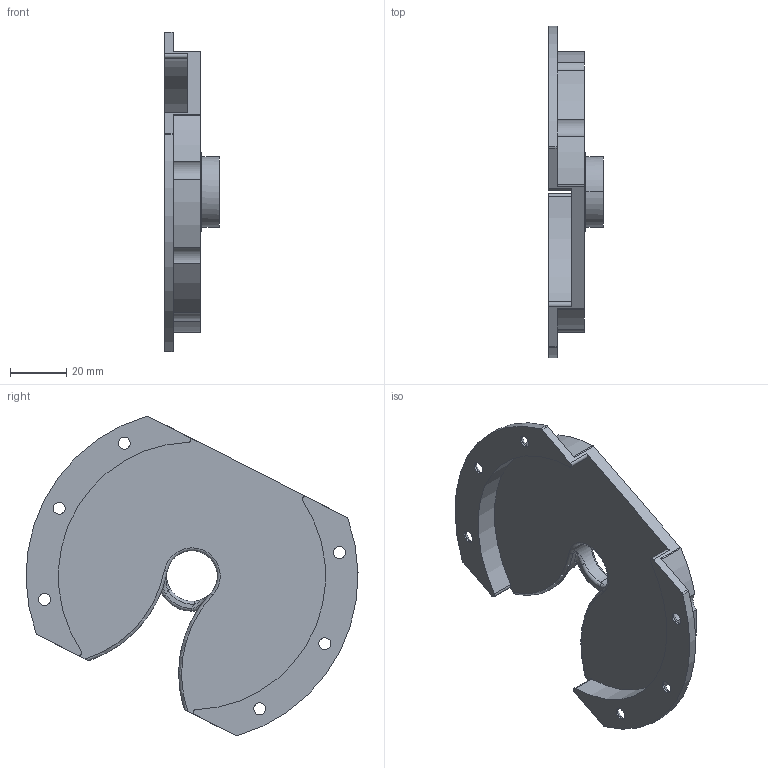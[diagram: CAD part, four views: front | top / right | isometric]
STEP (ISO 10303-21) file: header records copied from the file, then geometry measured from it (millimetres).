
FILE_DESCRIPTION((''),'2;1');
FILE_NAME('KD-D-403L_LEG-SHIN_COVER_1','2025-07-13T10:08:25',('Administrator'),(''),'CREO PARAMETRIC BY PTC INC, 2022073','CREO PARAMETRIC BY PTC INC, 2022073','');
FILE_SCHEMA(('CONFIG_CONTROL_DESIGN'));
Length unit declared in the file: millimetre
Products named in the file (1): KD-D-403L_LEG-SHIN_COVER_1
Bounding box: 19.45 x 117.97 x 113.57 mm (x, y, z)
Volume: 38928.2 mm3; surface area: 22907.3 mm2
Topology: 1 solids, 1 shells, 114 faces, 335 edges, 215 vertices
Faces by surface type: cylinder 57, plane 25, torus 14, cone 12, bspline 6
Entity records: 4149 total; most frequent: CARTESIAN_POINT 954, DIRECTION 716, ORIENTED_EDGE 666, EDGE_CURVE 333, AXIS2_PLACEMENT_3D 296, VERTEX_POINT 215, CIRCLE 188, VECTOR 124
